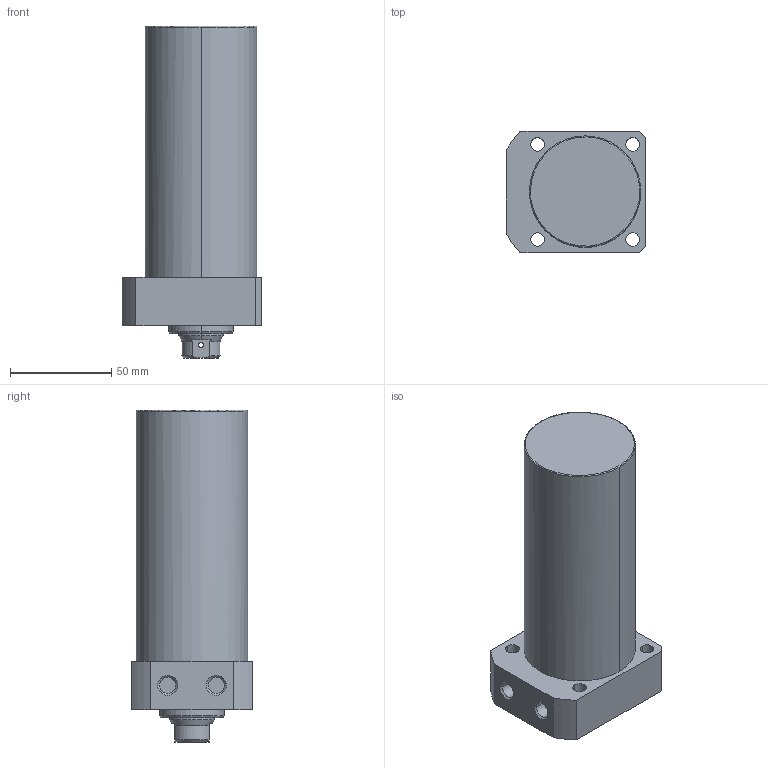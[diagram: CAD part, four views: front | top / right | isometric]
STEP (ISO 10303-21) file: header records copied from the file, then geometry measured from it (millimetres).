
FILE_DESCRIPTION((' '),'2;1');
FILE_NAME( 'TLLR-055CB-095.STEP.stp', '2025-10-24T16:34:44', (' '), ('--- Datakit www.datakit.com---'), ' Datakit CrossCadWare V2024.1 Dec 21 2023', 'Mastercam 2025', ' ');
FILE_SCHEMA(('AUTOMOTIVE_DESIGN { 1 0 10303 214 1 1 1 1 }'));
Length unit declared in the file: millimetre
Products named in the file (1): TLLR-055CB-095
Bounding box: 69 x 60 x 164 mm (x, y, z)
Volume: 392188.2 mm3; surface area: 39761.1 mm2
Topology: 1 solids, 1 shells, 67 faces, 197 edges, 136 vertices
Faces by surface type: cylinder 32, plane 19, cone 14, torus 2
Entity records: 3058 total; most frequent: CARTESIAN_POINT 1139, DIRECTION 426, ORIENTED_EDGE 390, EDGE_CURVE 195, AXIS2_PLACEMENT_3D 179, VERTEX_POINT 136, CIRCLE 111, EDGE_LOOP 85
